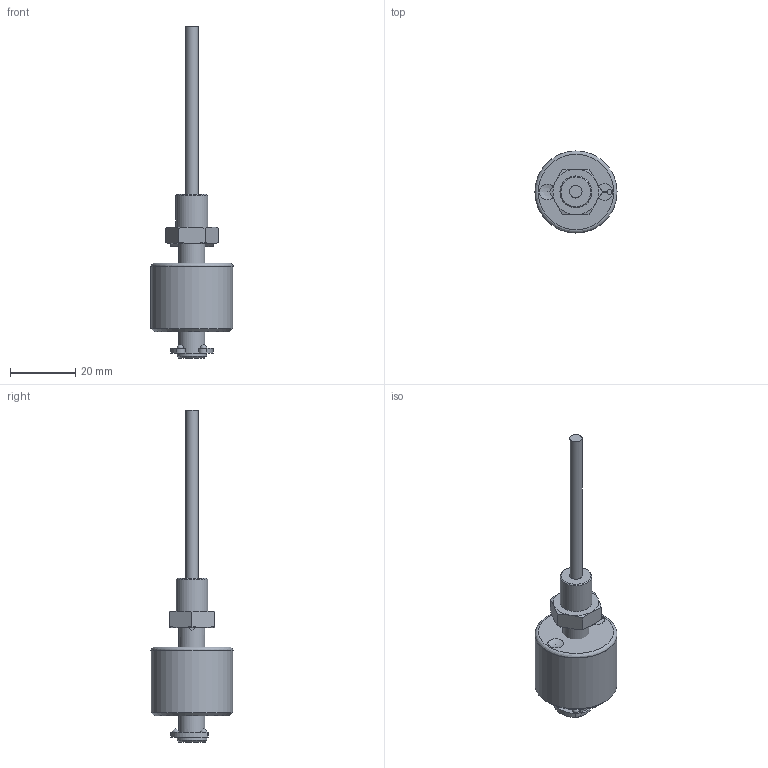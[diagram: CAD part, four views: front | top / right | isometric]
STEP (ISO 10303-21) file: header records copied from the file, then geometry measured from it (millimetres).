
FILE_DESCRIPTION(/* description */ ('Katalogmodell Elobau'),/* implementation_level */ '2;1');
FILE_NAME(/* name */ '2030_0_A.stp',/* time_stamp */ '2014-10-08T11:32:17+02:00',/* author */ ('Elobau GmbH & Co. KG'),/* organization */ ('Elobau GmbH & Co. KG'),/* preprocessor_version */ 'ST-DEVELOPER v15',/* originating_system */ 'SIEMENS PLM Software NX 8.5',/* authorisation */ '');
FILE_SCHEMA (('AUTOMOTIVE_DESIGN { 1 0 10303 214 3 1 1 1 }'));
Length unit declared in the file: millimetre
Products named in the file (1): 2030.0_A
Bounding box: 25.11 x 25.11 x 101.5 mm (x, y, z)
Volume: 14320.1 mm3; surface area: 5108.8 mm2
Topology: 2 solids, 2 shells, 56 faces, 128 edges, 79 vertices
Faces by surface type: plane 27, cone 13, cylinder 11, sphere 4, bspline 1
Full cylindrical faces by diameter (mm): 3.8 x1, 4.982 x1, 8 x1, 9 x1, 9.728 x1, 25 x1
Entity records: 1593 total; most frequent: CARTESIAN_POINT 322, DIRECTION 247, ORIENTED_EDGE 210, AXIS2_PLACEMENT_3D 109, EDGE_CURVE 105, EDGE_LOOP 73, VERTEX_POINT 71, ADVANCED_FACE 56
